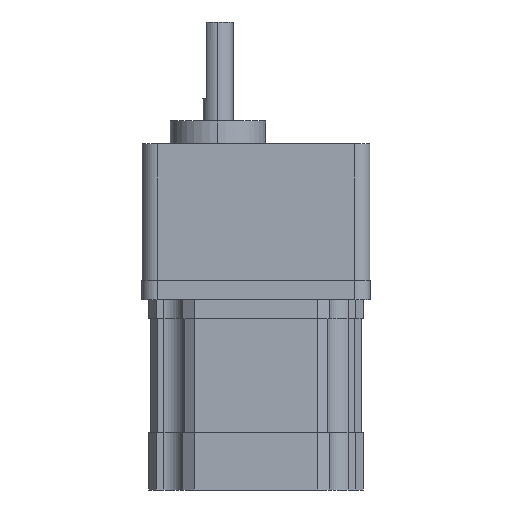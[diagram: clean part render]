
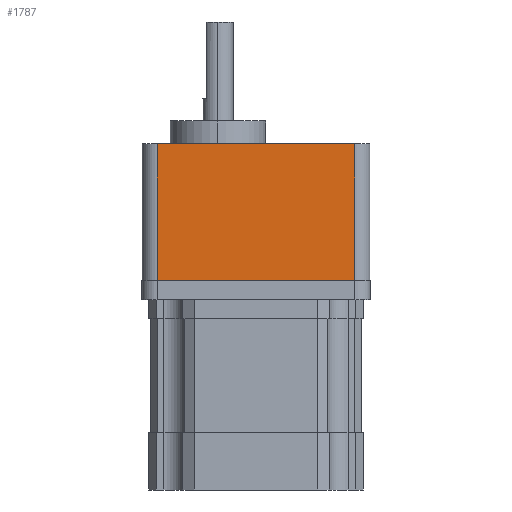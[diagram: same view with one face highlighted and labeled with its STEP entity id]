
A CAD part, left-side view. The second image highlights one B-rep face of the part: STEP entity #1787.
In plain terms, the highlighted planar face has unit normal (-1, 0, 0).
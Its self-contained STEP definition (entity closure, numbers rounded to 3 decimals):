
#168 = VERTEX_POINT ( 'NONE', #230 ) ;
#230 = CARTESIAN_POINT ( 'NONE',  ( -29.9, 25.9, 36. ) ) ;
#312 = VERTEX_POINT ( 'NONE', #473 ) ;
#473 = CARTESIAN_POINT ( 'NONE',  ( -29.9, -25.9, 36. ) ) ;
#590 = VERTEX_POINT ( 'NONE', #1841 ) ;
#732 = VECTOR ( 'NONE', #3758, 1000. ) ;
#733 = ORIENTED_EDGE ( 'NONE', *, *, #1982, .T. ) ;
#820 = LINE ( 'NONE', #3208, #1155 ) ;
#866 = CARTESIAN_POINT ( 'NONE',  ( -29.9, -25.9, 0. ) ) ;
#892 = DIRECTION ( 'NONE',  ( 0., -1., 0. ) ) ;
#1144 = ORIENTED_EDGE ( 'NONE', *, *, #2692, .F. ) ;
#1155 = VECTOR ( 'NONE', #3798, 1000. ) ;
#1263 = CARTESIAN_POINT ( 'NONE',  ( -29.9, -25.9, 36. ) ) ;
#1284 = EDGE_CURVE ( 'NONE', #168, #312, #2961, .T. ) ;
#1407 = LINE ( 'NONE', #4047, #732 ) ;
#1444 = DIRECTION ( 'NONE',  ( 0., 0., -1. ) ) ;
#1787 = ADVANCED_FACE ( 'NONE', ( #2551 ), #2205, .F. ) ;
#1841 = CARTESIAN_POINT ( 'NONE',  ( -29.9, 25.9, 0. ) ) ;
#1899 = DIRECTION ( 'NONE',  ( 0., 0., -1. ) ) ;
#1982 = EDGE_CURVE ( 'NONE', #168, #590, #820, .T. ) ;
#2050 = ORIENTED_EDGE ( 'NONE', *, *, #3181, .T. ) ;
#2161 = DIRECTION ( 'NONE',  ( 1., 0., 0. ) ) ;
#2205 = PLANE ( 'NONE',  #3022 ) ;
#2551 = FACE_OUTER_BOUND ( 'NONE', #3706, .T. ) ;
#2692 = EDGE_CURVE ( 'NONE', #312, #3683, #3917, .T. ) ;
#2694 = CARTESIAN_POINT ( 'NONE',  ( -29.9, -25.9, 36. ) ) ;
#2739 = ORIENTED_EDGE ( 'NONE', *, *, #1284, .F. ) ;
#2853 = VECTOR ( 'NONE', #1444, 1000. ) ;
#2961 = LINE ( 'NONE', #3718, #3450 ) ;
#3022 = AXIS2_PLACEMENT_3D ( 'NONE', #1263, #2161, #1899 ) ;
#3181 = EDGE_CURVE ( 'NONE', #590, #3683, #1407, .T. ) ;
#3208 = CARTESIAN_POINT ( 'NONE',  ( -29.9, 25.9, 36. ) ) ;
#3450 = VECTOR ( 'NONE', #892, 1000. ) ;
#3683 = VERTEX_POINT ( 'NONE', #866 ) ;
#3706 = EDGE_LOOP ( 'NONE', ( #2050, #1144, #2739, #733 ) ) ;
#3718 = CARTESIAN_POINT ( 'NONE',  ( -29.9, -25.9, 36. ) ) ;
#3758 = DIRECTION ( 'NONE',  ( 0., -1., 0. ) ) ;
#3798 = DIRECTION ( 'NONE',  ( 0., 0., -1. ) ) ;
#3917 = LINE ( 'NONE', #2694, #2853 ) ;
#4047 = CARTESIAN_POINT ( 'NONE',  ( -29.9, -25.9, 0. ) ) ;
